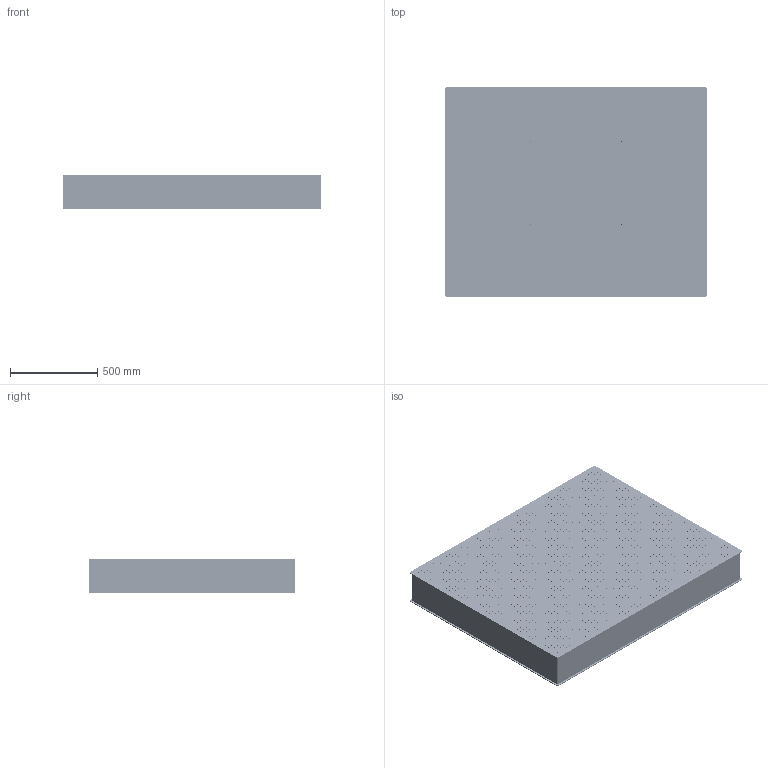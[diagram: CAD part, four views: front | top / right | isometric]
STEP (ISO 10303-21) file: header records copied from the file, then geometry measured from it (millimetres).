
FILE_DESCRIPTION (( 'STEP AP203' ), '1' );
FILE_NAME ('NTBR1215-200 铁磁不锈钢面包板 AP203.STEP', '2025-02-13T06:03:11', ( '13701099104@139.COM' ), ( '' ), 'SwSTEP 2.0', 'SolidWorks 2021', '' );
FILE_SCHEMA (( 'CONFIG_CONTROL_DESIGN' ));
Products named in the file (1): NTBR1215-200 铁磁不锈钢面包板 AP203
Bounding box: 1500 x 1200 x 200 mm (x, y, z)
Surface area: 8450697 mm2 (no closed solid volume)
Topology: 0 solids, 30 shells, 4237 faces, 15275 edges, 11070 vertices
Faces by surface type: cylinder 4172, plane 65
Entity records: 181729 total; most frequent: DIRECTION 34447, CARTESIAN_POINT 30583, ORIENTED_EDGE 27836, EDGE_CURVE 15275, AXIS2_PLACEMENT_3D 14934, VERTEX_POINT 11070, CIRCLE 10696, EDGE_LOOP 9573
